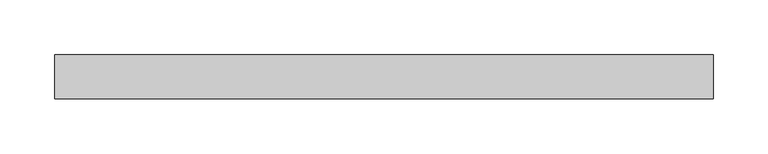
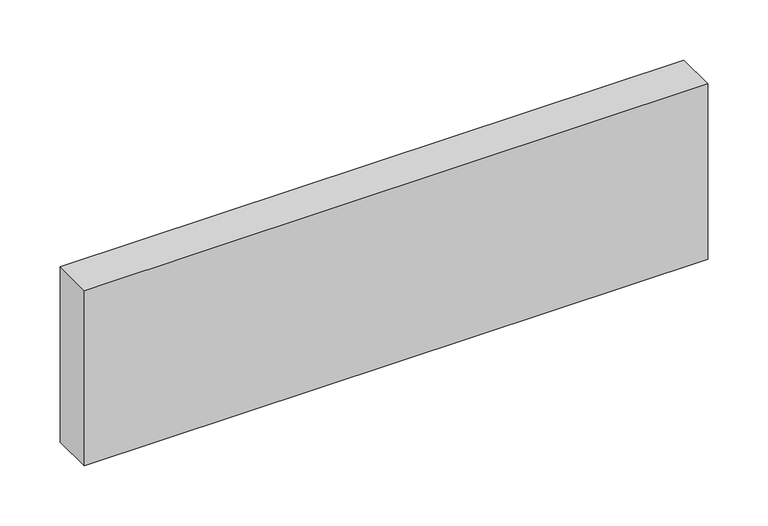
"""IFC4 building model written with IfcOpenShell, lengths in millimetres: plate geometry, Panneau système vide : Epaiss. 4cm."""

import ifcopenshell
import ifcopenshell.guid

model = None  # the IFC model being written
_history = None  # IfcOwnerHistory: only IFC2X3 demands one
_inside = {}  # id of a spatial element -> (the spatial element, [elements in it])
_under = {}  # id of a project, library or spatial element -> (it, [spatial elements below it])
_declared = {}  # id of a project -> (the project, [libraries it declares])
_typed = {}  # id of a type object -> (the type object, [elements of that type])
_made_of = {}  # id of a material, layer set ... -> (it, [elements and type objects made of it])


def new_model(schema):
    """Start an empty IFC model of exactly this schema.

    Asked for "IFC4X3", IfcOpenShell would pick the latest addendum, in which some entities
    have other attributes; the version numbers below select the first issue.
    IFC2X3 requires an IfcOwnerHistory on every rooted entity: one is made here for all.
    """
    global model, _history
    if schema == "IFC4X3":
        model = ifcopenshell.file(schema_version=(4, 3, 0, 0))
    else:
        model = ifcopenshell.file(schema=schema)
    _inside.clear()
    _under.clear()
    _declared.clear()
    _typed.clear()
    _made_of.clear()
    _history = None
    if model.schema == "IFC2X3":
        org = make("IfcOrganization", Name="unknown")
        user = make(
            "IfcPersonAndOrganization",
            ThePerson=make("IfcPerson", FamilyName="unknown"),
            TheOrganization=org,
        )
        app = make(
            "IfcApplication",
            ApplicationDeveloper=org,
            Version="unknown",
            ApplicationFullName="unknown",
            ApplicationIdentifier="unknown",
        )
        _history = make(
            "IfcOwnerHistory",
            OwningUser=user,
            OwningApplication=app,
            ChangeAction="ADDED",
            CreationDate=0,
        )
    return model


def make(cls, **values):
    """One entity of the class cls with the attributes given. An attribute that is None is left unset."""
    return model.create_entity(
        cls, **{name: value for name, value in values.items() if value is not None}
    )


def rooted(cls, **values):
    """An entity with a GlobalId (a new one), such as an element, a storey or a relation."""
    return make(cls, GlobalId=ifcopenshell.guid.new(), OwnerHistory=_history, **values)


def si_unit(unit_type, name, prefix=None):
    """IfcSIUnit, for example si_unit("LENGTHUNIT", "METRE", prefix="MILLI")."""
    return make("IfcSIUnit", UnitType=unit_type, Prefix=prefix, Name=name)


def assignment(units):
    """IfcUnitAssignment: the units of a project."""
    return None if units is None else make("IfcUnitAssignment", Units=units)


def point(xyz):
    """IfcCartesianPoint."""
    return None if xyz is None else make("IfcCartesianPoint", Coordinates=xyz)


def direction(xyz):
    """IfcDirection."""
    return None if xyz is None else make("IfcDirection", DirectionRatios=xyz)


def frame(location, z_axis=None, x_axis=None):
    """IfcAxis2Placement3D, a coordinate frame: its origin and axes. An axis left out is left unset."""
    return make(
        "IfcAxis2Placement3D",
        Location=point(location),
        Axis=direction(z_axis),
        RefDirection=direction(x_axis),
    )


def origin():
    """The frame at (0, 0, 0) with its axes left unset."""
    return frame((0.0, 0.0, 0.0))


def origin_with_axes():
    """The frame at (0, 0, 0) with the z axis (0, 0, 1) and the x axis (1, 0, 0) written out."""
    return frame((0.0, 0.0, 0.0), z_axis=(0.0, 0.0, 1.0), x_axis=(1.0, 0.0, 0.0))


def place(relative_to, where):
    """IfcLocalPlacement: puts the frame where relative to a parent placement (None: the world)."""
    return make(
        "IfcLocalPlacement", PlacementRelTo=relative_to, RelativePlacement=where
    )


def context(
    kind, dimensions, precision=None, world=None, true_north=None, identifier=None
):
    """IfcGeometricRepresentationContext, for example the 3D "Model" context."""
    return make(
        "IfcGeometricRepresentationContext",
        ContextIdentifier=identifier,
        ContextType=kind,
        CoordinateSpaceDimension=dimensions,
        Precision=precision,
        WorldCoordinateSystem=world,
        TrueNorth=true_north,
    )


def project(units=None, contexts=None):
    """IfcProject with its units and contexts."""
    return rooted(
        "IfcProject",
        Name="project",
        RepresentationContexts=contexts,
        UnitsInContext=assignment(units),
    )


def spatial(cls, under=None, at=None, **own):
    """A site, building, storey or space (cls), placed at a placement, below another one or the project."""
    s = rooted(cls, ObjectPlacement=at, **own)
    if under is not None:
        _under.setdefault(under.id(), (under, []))[1].append(s)
    return s


def polyline(points):
    """IfcPolyline through the points."""
    return make("IfcPolyline", Points=[point(p) for p in points])


def outline(outer, holes=None, kind="AREA"):
    """IfcArbitraryClosedProfileDef: a profile drawn as a closed curve; with holes, ...WithVoids."""
    if holes is None:
        return make("IfcArbitraryClosedProfileDef", ProfileType=kind, OuterCurve=outer)
    return make(
        "IfcArbitraryProfileDefWithVoids",
        ProfileType=kind,
        OuterCurve=outer,
        InnerCurves=holes,
    )


def extrude(swept, where, along, depth):
    """IfcExtrudedAreaSolid: the profile swept, set in the frame where, extruded along a direction by depth."""
    return make(
        "IfcExtrudedAreaSolid",
        SweptArea=swept,
        Position=where,
        ExtrudedDirection=direction(along),
        Depth=depth,
    )


def shape(context_of_items, identifier, shape_type, items):
    """IfcShapeRepresentation: the items that make up one representation, for example the "Body"."""
    return make(
        "IfcShapeRepresentation",
        ContextOfItems=context_of_items,
        RepresentationIdentifier=identifier,
        RepresentationType=shape_type,
        Items=items,
    )


def source(mapping_origin, context_of_items, identifier, shape_type, items):
    """IfcRepresentationMap: a shape defined once, which mapped items show again and again."""
    return make(
        "IfcRepresentationMap",
        MappingOrigin=mapping_origin,
        MappedRepresentation=shape(context_of_items, identifier, shape_type, items),
    )


def transform(
    local_origin,
    x_axis=None,
    y_axis=None,
    z_axis=None,
    scale=None,
    scale2=None,
    scale3=None,
    uniform=True,
):
    """IfcCartesianTransformationOperator3D, or its non-uniform kind. x_axis, y_axis, z_axis: its Axis1, 2, 3."""
    if uniform:
        return make(
            "IfcCartesianTransformationOperator3D",
            Axis1=direction(x_axis),
            Axis2=direction(y_axis),
            LocalOrigin=point(local_origin),
            Scale=scale,
            Axis3=direction(z_axis),
        )
    return make(
        "IfcCartesianTransformationOperator3DnonUniform",
        Axis1=direction(x_axis),
        Axis2=direction(y_axis),
        LocalOrigin=point(local_origin),
        Scale=scale,
        Axis3=direction(z_axis),
        Scale2=scale2,
        Scale3=scale3,
    )


def mapped(mapping_source, mapping_target):
    """IfcMappedItem: shows the shape of a source again, moved by a transform."""
    return make(
        "IfcMappedItem", MappingSource=mapping_source, MappingTarget=mapping_target
    )


def made_of(thing, what):
    """Note that an element or type object is made of a material, layer set ...; save() writes the relation."""
    if what is not None:
        _made_of.setdefault(what.id(), (what, []))[1].append(thing)
    return thing


def element(
    cls,
    number,
    at=None,
    inside=None,
    cuts=None,
    type_object=None,
    material=None,
    context=None,
    identifier="Body",
    shape_type=None,
    held_by="IfcProductDefinitionShape",
    body=None,
    shapes=None,
    **own,
):
    """One element of the class cls, such as IfcWall. Its Tag is "e" and its number.

    at: its placement. inside: the storey or other place that contains it. cuts: it is an
    opening in that element (IfcRelVoidsElement). A single representation is given by context,
    identifier, shape_type and body (its items); several are given by shapes. held_by: the class
    of the entity that holds the representations. save() writes the other relations.
    """
    e = rooted(cls, Tag="e%d" % number, ObjectPlacement=at, **own)
    if body is not None:
        shapes = [shape(context, identifier, shape_type, body)]
    if shapes is not None:
        e.Representation = make(held_by, Representations=shapes)
    if inside is not None:
        _inside.setdefault(inside.id(), (inside, []))[1].append(e)
    if cuts is not None:
        rooted(
            "IfcRelVoidsElement", RelatingBuildingElement=cuts, RelatedOpeningElement=e
        )
    if type_object is not None:
        _typed.setdefault(type_object.id(), (type_object, []))[1].append(e)
    return made_of(e, material)


def aggregate(whole, parts):
    """IfcRelAggregates: a whole, such as a stair, and the parts it consists of."""
    return rooted("IfcRelAggregates", RelatingObject=whole, RelatedObjects=parts)


def save(model, path):
    """Write the relations noted so far, then the file.

    IfcRelAggregates (storeys below a building ...), IfcRelContainedInSpatialStructure (elements
    in a storey), IfcRelDefinesByType, IfcRelAssociatesMaterial and IfcRelDeclares: one each for
    every whole, place, type object, material and project.
    """
    for whole, parts in _under.values():
        aggregate(whole, parts)
    for where, things in _inside.values():
        rooted(
            "IfcRelContainedInSpatialStructure",
            RelatedElements=things,
            RelatingStructure=where,
        )
    for kind, things in _typed.values():
        rooted("IfcRelDefinesByType", RelatedObjects=things, RelatingType=kind)
    for what, things in _made_of.values():
        rooted("IfcRelAssociatesMaterial", RelatedObjects=things, RelatingMaterial=what)
    for by, libraries in _declared.values():
        rooted("IfcRelDeclares", RelatingContext=by, RelatedDefinitions=libraries)
    model.write(path)


def plate_db8affaa(model_context):
    return source(origin(), model_context, "Body", "SweptSolid", [
        extrude(outline(polyline([(300.0, -20.0), (-300.0, -20.0), (-300.0, 20.0), (300.0, 20.0), (300.0, -20.0)])), origin_with_axes(), (0.0, 0.0, 1.0), 178.3333333),
    ])


if __name__ == "__main__":
    model = new_model("IFC4")
    model_context = context("Model", 3, world=origin())
    ifc_project = project(units=[si_unit("LENGTHUNIT", "METRE", prefix="MILLI")], contexts=[model_context])
    site = spatial("IfcSite", under=ifc_project)
    building = spatial("IfcBuilding", under=site)
    placement = place(None, origin())
    plate_shape = plate_db8affaa(model_context)
    element("IfcPlate", 1, ObjectType="Panneau système vide : Epaiss. 4cm", at=placement, inside=building, context=model_context, shape_type="MappedRepresentation", body=[
        mapped(plate_shape, transform((0.0, 0.0, 0.0), x_axis=(1.0, 0.0, 0.0), y_axis=(0.0, 1.0, 0.0), z_axis=(0.0, 0.0, 1.0))),
    ])
    save(model, "model.ifc")
